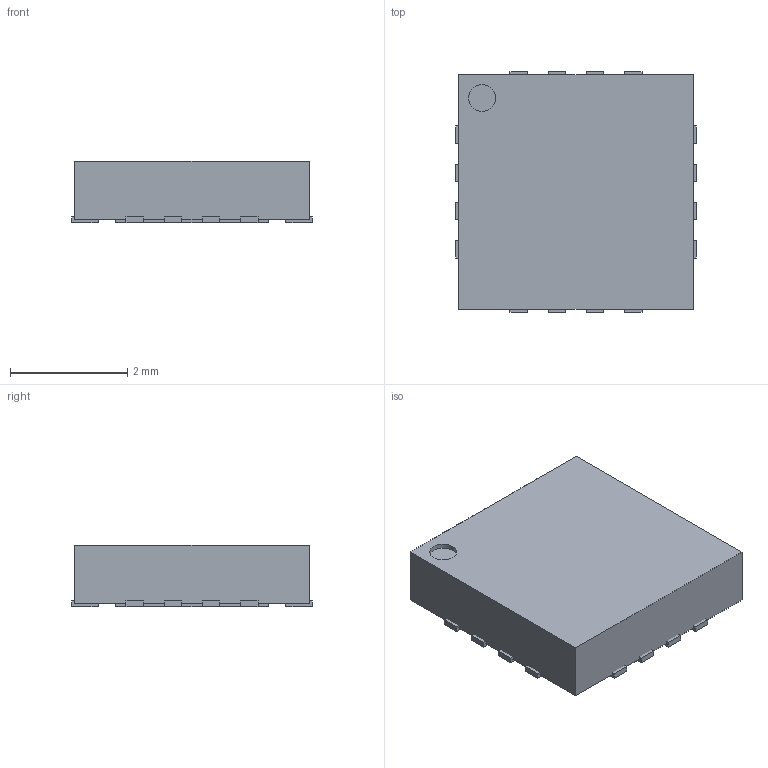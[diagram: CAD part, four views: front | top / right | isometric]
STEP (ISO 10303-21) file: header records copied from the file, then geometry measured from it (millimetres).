
FILE_DESCRIPTION(('FreeCAD Model'),'2;1');
FILE_NAME('Open CASCADE Shape Model','2026-10-15T00:26:03',('FreeCAD'),( 'FreeCAD'),'Open CASCADE STEP processor 7.8','FreeCAD','Unknown');
FILE_SCHEMA(('AUTOMOTIVE_DESIGN { 1 0 10303 214 1 1 1 1 }'));
Length unit declared in the file: millimetre
Products named in the file (1): Open CASCADE STEP translator 7.8 3
Bounding box: 4.1 x 4.1 x 1.05 mm (x, y, z)
Volume: 16.9 mm3; surface area: 69.4 mm2
Topology: 18 solids, 18 shells, 110 faces, 219 edges, 146 vertices
Faces by surface type: plane 109, cylinder 1
Full cylindrical faces by diameter (mm): 0.46 x1
Entity records: 2761 total; most frequent: CARTESIAN_POINT 476, DIRECTION 443, ORIENTED_EDGE 438, EDGE_CURVE 219, LINE 217, VECTOR 217, VERTEX_POINT 146, AXIS2_PLACEMENT_3D 113
